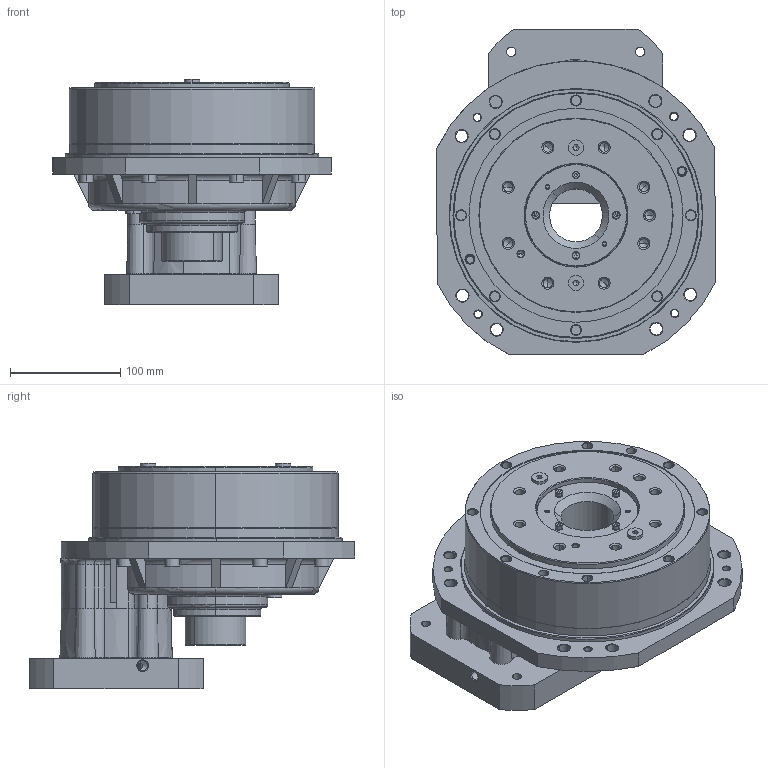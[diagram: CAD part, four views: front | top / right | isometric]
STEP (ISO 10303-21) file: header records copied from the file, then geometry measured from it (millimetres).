
FILE_DESCRIPTION (( 'STEP AP214' ), '1' );
FILE_NAME ('RDS-50C-OP-24-130165M10.STEP', '2022-11-13T04:13:39', ( '' ), ( '' ), 'SwSTEP 2.0', 'SolidWorks 2020', '' );
FILE_SCHEMA (( 'AUTOMOTIVE_DESIGN' ));
Length unit declared in the file: millimetre
Products named in the file (26): RDS-50C-OP-24-130165M10.stp; JIS B 2402 - 50 65 8 A(7).stp; DIN 908 - G 0.125 A.stp; 蹟隊 GB_T 70.1 M5 x 16.stp; 弹性挡圈GB 894.1-86 - 60.stp; 坶踡ん27-45.stp; 输入轴RDS-本体.stp; 50C-笢陑喘謫A.stp; 蹟隊 GB_T 70.1 M8 x 30.stp; 弹性挡圈GB 893.1-86 - 85.stp; 蹟隊 GB_T 70.1 M5 x 25.stp; O 形密封圈 50 x 3.5-G.stp; 錨璃949^RDS-50C-OP-24-130165M10; 蹟隊 GB_T 70.1 M4 x 10.stp; 粣創 61912-Z GB_T 276-94.stp; 50C-ｰｲﾗｰｷｨﾀｼ-screwｷｴ.stp; 50C腴厒奪.stp; RDS-50C-OP-24-130165M10; TC 55x70x8.stp; 笢潔楊擘50C-RDS.stp; 蹟隊 GB_T 70.1 M10 x 35.stp; 粣創 61813-2Z GB_T 276-94.stp; AS 568 - DASH # 169(5).stp; 蹟隊 GB_T 70.1 M8 x 55.stp; 萇儂假蚾楊擘130-165-70H30.stp; 50C.stp
Assembly tree (51 placements, depth 3):
  RDS-50C-OP-24-130165M10
    RDS-50C-OP-24-130165M10.stp
      50C.stp
      50C-ｰｲﾗｰｷｨﾀｼ-screwｷｴ.stp
      粣創 61813-2Z GB_T 276-94.stp  x2
      50C-笢陑喘謫A.stp
      蹟隊 GB_T 70.1 M10 x 35.stp  x6
      50C腴厒奪.stp
      AS 568 - DASH # 169(5).stp
      O 形密封圈 50 x 3.5-G.stp
      蹟隊 GB_T 70.1 M4 x 10.stp  x4
      TC 55x70x8.stp
      DIN 908 - G 0.125 A.stp  x3
      粣創 61912-Z GB_T 276-94.stp
      弹性挡圈GB 893.1-86 - 85.stp
      弹性挡圈GB 894.1-86 - 60.stp
      笢潔楊擘50C-RDS.stp
      萇儂假蚾楊擘130-165-70H30.stp
      输入轴RDS-本体.stp
      JIS B 2402 - 50 65 8 A(7).stp
      坶踡ん27-45.stp
      蹟隊 GB_T 70.1 M5 x 25.stp  x6
      蹟隊 GB_T 70.1 M5 x 16.stp
      蹟隊 GB_T 70.1 M8 x 55.stp  x4
      蹟隊 GB_T 70.1 M8 x 30.stp  x8
    錨璃949^RDS-50C-OP-24-130165M10
Bounding box: 252.52 x 295.13 x 204.5 mm (x, y, z)
Volume: 4588462 mm3; surface area: 747613.5 mm2
Topology: 182 solids, 182 shells, 4322 faces, 11380 edges, 7352 vertices
Faces by surface type: plane 1583, cylinder 1114, bspline 578, cone 484, torus 435, sphere 128
Entity records: 141928 total; most frequent: CARTESIAN_POINT 53449, ORIENTED_EDGE 18692, DIRECTION 16541, EDGE_CURVE 9346, VERTEX_POINT 6109, AXIS2_PLACEMENT_3D 5760, VECTOR 5021, LINE 5021
